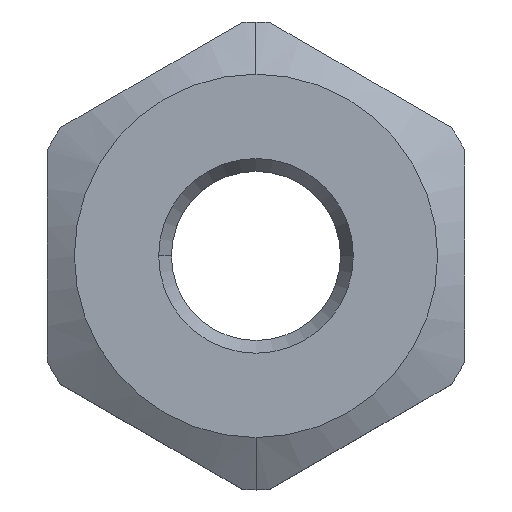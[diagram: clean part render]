
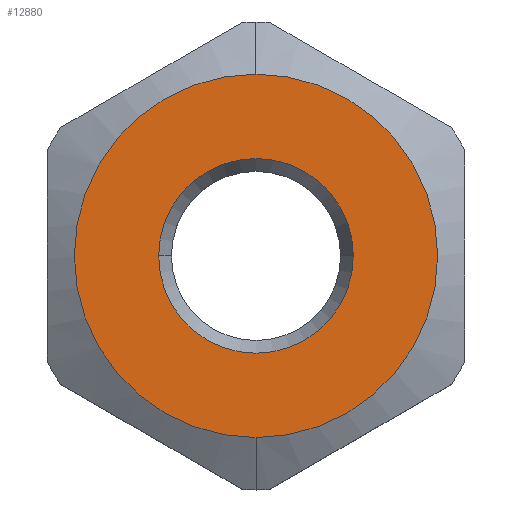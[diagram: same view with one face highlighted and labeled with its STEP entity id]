
A CAD part, top view. The second image highlights one B-rep face of the part: STEP entity #12880.
In plain terms, the highlighted planar face has unit normal (0, 0, 1).
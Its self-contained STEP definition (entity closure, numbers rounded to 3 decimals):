
#540=CARTESIAN_POINT('',(8.021,0.,
31.165));
#550=VERTEX_POINT('',#540);
#580=CARTESIAN_POINT('',(-2.694,0.,
31.165));
#590=DIRECTION('',(0.,0.,1.));
#600=DIRECTION('',(1.,0.,0.));
#610=AXIS2_PLACEMENT_3D('',#580,#590,#600);
#620=CIRCLE('',#610,10.716);
#630=CARTESIAN_POINT('',(-13.41,0.,
31.165));
#640=VERTEX_POINT('',#630);
#650=EDGE_CURVE('',#640,#550,#620,.T.);
#12630=CARTESIAN_POINT('',(-2.694,-16.75,31.165));
#12640=DIRECTION('',(0.,0.,1.));
#12650=DIRECTION('',(-1.,0.,0.));
#12660=AXIS2_PLACEMENT_3D('',#12630,#12640,#12650);
#12670=PLANE('',#12660);
#12680=EDGE_CURVE('',#550,#640,#620,.T.);
#12690=ORIENTED_EDGE('',*,*,#12680,.F.);
#12700=ORIENTED_EDGE('',*,*,#650,.F.);
#12710=EDGE_LOOP('',(#12700,#12690));
#12720=FACE_BOUND('',#12710,.T.);
#12730=CARTESIAN_POINT('',(-2.694,0.,
31.165));
#12740=DIRECTION('',(0.,0.,-1.));
#12750=DIRECTION('',(0.,1.,0.));
#12760=AXIS2_PLACEMENT_3D('',#12730,#12740,#12750);
#12770=CIRCLE('',#12760,20.);
#12780=CARTESIAN_POINT('',(-2.694,20.,31.165));
#12790=VERTEX_POINT('',#12780);
#12800=CARTESIAN_POINT('',(-2.694,-20.,31.165));
#12810=VERTEX_POINT('',#12800);
#12820=EDGE_CURVE('',#12790,#12810,#12770,.T.);
#12830=ORIENTED_EDGE('',*,*,#12820,.F.);
#12840=EDGE_CURVE('',#12810,#12790,#12770,.T.);
#12850=ORIENTED_EDGE('',*,*,#12840,.F.);
#12860=EDGE_LOOP('',(#12850,#12830));
#12870=FACE_OUTER_BOUND('',#12860,.T.);
#12880=ADVANCED_FACE('',(#12720,#12870),#12670,.T.);
